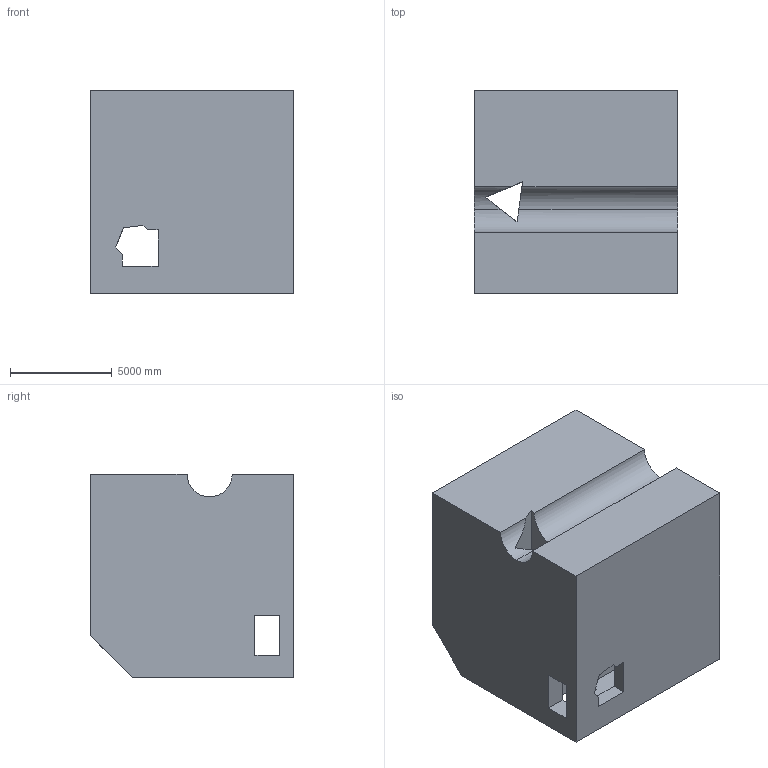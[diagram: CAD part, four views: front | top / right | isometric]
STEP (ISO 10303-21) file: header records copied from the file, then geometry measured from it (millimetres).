
FILE_DESCRIPTION (( 'STEP AP203' ), '1' );
FILE_NAME ('778.STEP', '2022-07-29T13:08:48', ( 'user' ), ( '' ), 'SwSTEP 2.0', 'SolidWorks 2021', '' );
FILE_SCHEMA (( 'CONFIG_CONTROL_DESIGN' ));
Length unit declared in the file: centimetre
Products named in the file (1): 778
Bounding box: 10000 x 10000 x 10000 mm (x, y, z)
Volume: 856381289381.2 mm3; surface area: 807415500.6 mm2
Topology: 1 solids, 1 shells, 60 faces, 192 edges, 128 vertices
Faces by surface type: plane 57, cylinder 3
Entity records: 2181 total; most frequent: CARTESIAN_POINT 396, ORIENTED_EDGE 384, DIRECTION 313, EDGE_CURVE 192, LINE 183, VECTOR 183, VERTEX_POINT 128, EDGE_LOOP 66
